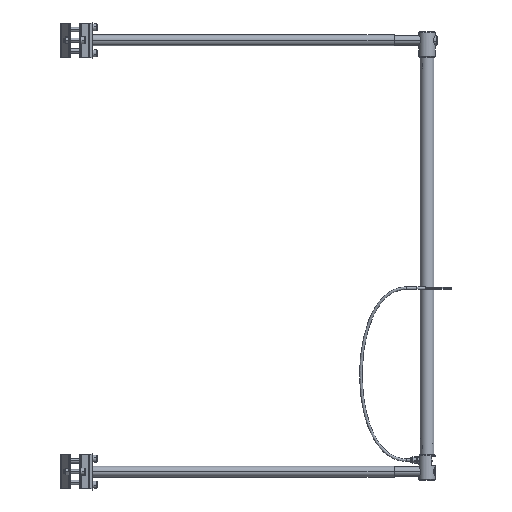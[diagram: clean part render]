
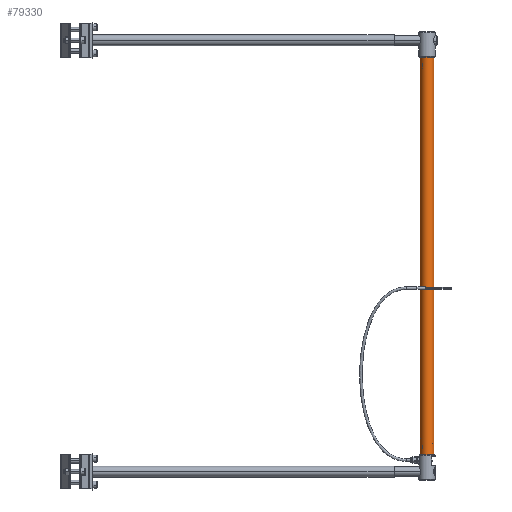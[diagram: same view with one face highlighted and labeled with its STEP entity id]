
A CAD part, top view. The second image highlights one B-rep face of the part: STEP entity #79330.
In plain terms, the highlighted cylindrical face has radius 16 mm (diameter 32 mm), a partial arc.
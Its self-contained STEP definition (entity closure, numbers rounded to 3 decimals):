
#201 = AXIS2_PLACEMENT_3D ( 'NONE', #63075, #73475, #26741 ) ;
#4677 = CARTESIAN_POINT ( 'NONE',  ( 16., 0., 0. ) ) ;
#6048 = CARTESIAN_POINT ( 'NONE',  ( -16., 0., 0. ) ) ;
#7772 = LINE ( 'NONE', #86391, #40488 ) ;
#10779 = DIRECTION ( 'NONE',  ( 0., -1., 0. ) ) ;
#16415 = DIRECTION ( 'NONE',  ( 0., -1., 0. ) ) ;
#22596 = ORIENTED_EDGE ( 'NONE', *, *, #94834, .T. ) ;
#22738 = DIRECTION ( 'NONE',  ( 0., -1., 0. ) ) ;
#25082 = FACE_OUTER_BOUND ( 'NONE', #36979, .T. ) ;
#25321 = VERTEX_POINT ( 'NONE', #57823 ) ;
#26741 = DIRECTION ( 'NONE',  ( 1., 0., 0. ) ) ;
#31191 = VERTEX_POINT ( 'NONE', #37145 ) ;
#32920 = VERTEX_POINT ( 'NONE', #6048 ) ;
#36979 = EDGE_LOOP ( 'NONE', ( #52389, #102605, #22596, #90493 ) ) ;
#37145 = CARTESIAN_POINT ( 'NONE',  ( -16., 921., 0. ) ) ;
#37944 = CARTESIAN_POINT ( 'NONE',  ( 0., 921., 0. ) ) ;
#38508 = DIRECTION ( 'NONE',  ( 1., 0., 0. ) ) ;
#39144 = EDGE_CURVE ( 'NONE', #31191, #32920, #66623, .T. ) ;
#39254 = AXIS2_PLACEMENT_3D ( 'NONE', #104311, #16415, #104879 ) ;
#39435 = EDGE_CURVE ( 'NONE', #32920, #62477, #92619, .T. ) ;
#40488 = VECTOR ( 'NONE', #78891, 1000. ) ;
#49304 = CIRCLE ( 'NONE', #67670, 16. ) ;
#52389 = ORIENTED_EDGE ( 'NONE', *, *, #39144, .F. ) ;
#57823 = CARTESIAN_POINT ( 'NONE',  ( 16., 921., 0. ) ) ;
#61980 = EDGE_CURVE ( 'NONE', #31191, #25321, #49304, .T. ) ;
#62477 = VERTEX_POINT ( 'NONE', #4677 ) ;
#63075 = CARTESIAN_POINT ( 'NONE',  ( 0., 0., 0. ) ) ;
#66619 = VECTOR ( 'NONE', #22738, 1000. ) ;
#66623 = LINE ( 'NONE', #101947, #66619 ) ;
#67670 = AXIS2_PLACEMENT_3D ( 'NONE', #37944, #10779, #38508 ) ;
#73475 = DIRECTION ( 'NONE',  ( 0., -1., 0. ) ) ;
#76530 = CYLINDRICAL_SURFACE ( 'NONE', #39254, 16. ) ;
#78891 = DIRECTION ( 'NONE',  ( 0., -1., 0. ) ) ;
#79330 = ADVANCED_FACE ( 'NONE', ( #25082 ), #76530, .T. ) ;
#86391 = CARTESIAN_POINT ( 'NONE',  ( 16., 921., 0. ) ) ;
#90493 = ORIENTED_EDGE ( 'NONE', *, *, #39435, .F. ) ;
#92619 = CIRCLE ( 'NONE', #201, 16. ) ;
#94834 = EDGE_CURVE ( 'NONE', #25321, #62477, #7772, .T. ) ;
#101947 = CARTESIAN_POINT ( 'NONE',  ( -16., 921., 0. ) ) ;
#102605 = ORIENTED_EDGE ( 'NONE', *, *, #61980, .T. ) ;
#104311 = CARTESIAN_POINT ( 'NONE',  ( 0., 921., 0. ) ) ;
#104879 = DIRECTION ( 'NONE',  ( 1., 0., 0. ) ) ;
